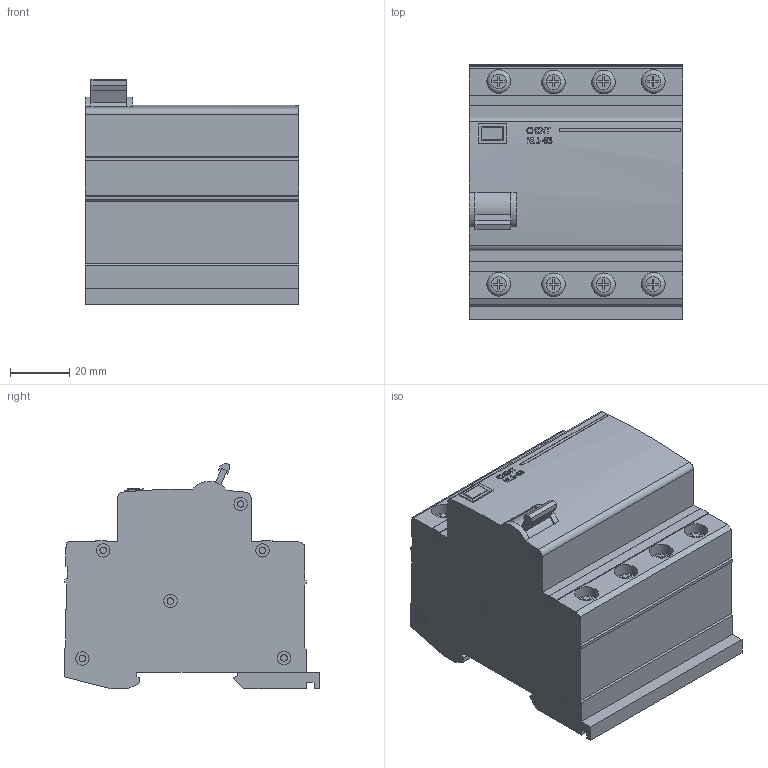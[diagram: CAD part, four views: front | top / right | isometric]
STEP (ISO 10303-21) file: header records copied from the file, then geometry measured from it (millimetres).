
FILE_DESCRIPTION(/* description */ (''),/* implementation_level */ '2;1');
FILE_NAME(/* name */ 'D:\CHINT\NL1-63\Диф. выключатель NL1-63 4P 25A 30mA AC (CHINT).stp',/* time_stamp */ '2017-09-30T15:49:10+04:00',/* author */ ('RSagdiev'),/* organization */ (''),/* preprocessor_version */ 'ST-DEVELOPER v16.5',/* originating_system */ 'Autodesk Inventor 2017',/* authorisation */ '');
FILE_SCHEMA (('AUTOMOTIVE_DESIGN { 1 0 10303 214 3 1 1 }'));
Length unit declared in the file: millimetre
Products named in the file (1): Диф. \X2\0432044B043A043B044E0447043004420435043B044C
\X0\ NL1-63 4P 25A 30mA AC (CHINT)
Bounding box: 72 x 86 x 76.01 mm (x, y, z)
Volume: 328342.4 mm3; surface area: 40399 mm2
Topology: 13 solids, 13 shells, 466 faces, 1145 edges, 756 vertices
Faces by surface type: plane 336, cylinder 67, bspline 55, torus 8
Full cylindrical faces by diameter (mm): 2.111 x2, 2.171 x2, 2.212 x6, 4.524 x12, 8 x16
Entity records: 14428 total; most frequent: CARTESIAN_POINT 3677, ORIENTED_EDGE 2198, DIRECTION 2027, EDGE_CURVE 1099, LINE 775, VECTOR 775, VERTEX_POINT 756, AXIS2_PLACEMENT_3D 626
